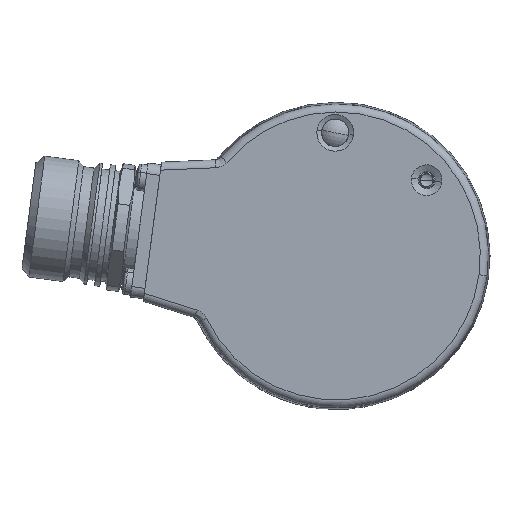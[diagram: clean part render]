
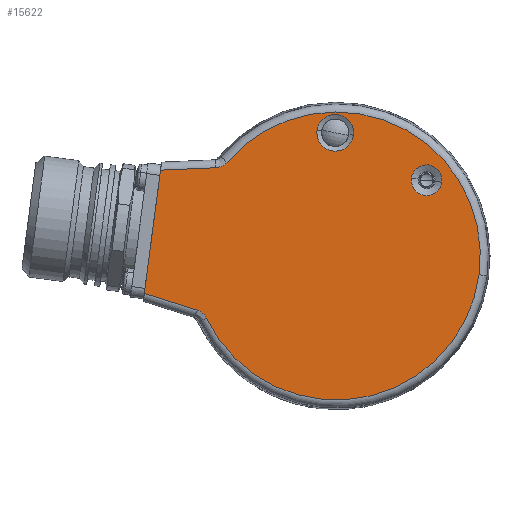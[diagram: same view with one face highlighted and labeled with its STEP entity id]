
A CAD part, left-side view. The second image highlights one B-rep face of the part: STEP entity #15622.
In plain terms, the highlighted planar face has unit normal (-1, 0, 0).
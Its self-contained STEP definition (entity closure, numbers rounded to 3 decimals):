
#14341 = VERTEX_POINT ( 'NONE', #33313 ) ;
#14343 = EDGE_CURVE ( 'NONE', #14344, #14341, #33308, .T. ) ;
#14344 = VERTEX_POINT ( 'NONE', #33299 ) ;
#14933 = VERTEX_POINT ( 'NONE', #35401 ) ;
#14935 = EDGE_CURVE ( 'NONE', #14936, #14933, #35528, .T. ) ;
#14936 = VERTEX_POINT ( 'NONE', #35514 ) ;
#15372 = EDGE_CURVE ( 'NONE', #15374, #15784, #37922, .T. ) ;
#15374 = VERTEX_POINT ( 'NONE', #37912 ) ;
#15481 = EDGE_CURVE ( 'NONE', #15638, #15484, #38439, .T. ) ;
#15484 = VERTEX_POINT ( 'NONE', #38435 ) ;
#15487 = ORIENTED_EDGE ( 'NONE', *, *, #15488, .F. ) ;
#15488 = EDGE_CURVE ( 'NONE', #15491, #15484, #38429, .T. ) ;
#15491 = VERTEX_POINT ( 'NONE', #38424 ) ;
#15493 = ORIENTED_EDGE ( 'NONE', *, *, #15495, .T. ) ;
#15495 = EDGE_CURVE ( 'NONE', #15491, #15497, #38419, .T. ) ;
#15497 = VERTEX_POINT ( 'NONE', #38179 ) ;
#15499 = ORIENTED_EDGE ( 'NONE', *, *, #15500, .F. ) ;
#15500 = EDGE_CURVE ( 'NONE', #15501, #15497, #38175, .T. ) ;
#15501 = VERTEX_POINT ( 'NONE', #38177 ) ;
#15502 = ORIENTED_EDGE ( 'NONE', *, *, #15504, .T. ) ;
#15504 = EDGE_CURVE ( 'NONE', #15501, #15374, #38152, .T. ) ;
#15505 = ORIENTED_EDGE ( 'NONE', *, *, #15372, .T. ) ;
#15622 = ADVANCED_FACE ( 'NONE', ( #38730, #38729, #38728 ), #38767, .F. ) ;
#15624 = EDGE_LOOP ( 'NONE', ( #15626, #15627 ) ) ;
#15626 = ORIENTED_EDGE ( 'NONE', *, *, #14935, .T. ) ;
#15627 = ORIENTED_EDGE ( 'NONE', *, *, #15628, .T. ) ;
#15628 = EDGE_CURVE ( 'NONE', #14933, #14936, #38761, .T. ) ;
#15629 = EDGE_LOOP ( 'NONE', ( #15630, #15631 ) ) ;
#15630 = ORIENTED_EDGE ( 'NONE', *, *, #14343, .T. ) ;
#15631 = ORIENTED_EDGE ( 'NONE', *, *, #15632, .T. ) ;
#15632 = EDGE_CURVE ( 'NONE', #14341, #14344, #38757, .T. ) ;
#15634 = EDGE_LOOP ( 'NONE', ( #15636, #15640, #15487, #15493, #15499, #15502, #15505 ) ) ;
#15636 = ORIENTED_EDGE ( 'NONE', *, *, #15637, .F. ) ;
#15637 = EDGE_CURVE ( 'NONE', #15638, #15784, #38869, .T. ) ;
#15638 = VERTEX_POINT ( 'NONE', #38868 ) ;
#15640 = ORIENTED_EDGE ( 'NONE', *, *, #15481, .T. ) ;
#15784 = VERTEX_POINT ( 'NONE', #39407 ) ;
#33299 = CARTESIAN_POINT ( 'NONE',  ( -19., 3.639, 23.702 ) ) ;
#33301 = DIRECTION ( 'NONE',  ( 0., -0.991, -0.131 ) ) ;
#33303 = DIRECTION ( 'NONE',  ( 1., 0., 0. ) ) ;
#33305 = CARTESIAN_POINT ( 'NONE',  ( -19., 0.203, 23.249 ) ) ;
#33307 = AXIS2_PLACEMENT_3D ( 'NONE', #33305, #33303, #33301 ) ;
#33308 = CIRCLE ( 'NONE', #33307, 3.466 ) ;
#33313 = CARTESIAN_POINT ( 'NONE',  ( -19., -3.233, 22.797 ) ) ;
#35401 = CARTESIAN_POINT ( 'NONE',  ( -19., -19.919, 13.924 ) ) ;
#35514 = CARTESIAN_POINT ( 'NONE',  ( -19., -14.17, 14.68 ) ) ;
#35517 = DIRECTION ( 'NONE',  ( 0., -0.991, -0.131 ) ) ;
#35521 = DIRECTION ( 'NONE',  ( 1., 0., 0. ) ) ;
#35523 = CARTESIAN_POINT ( 'NONE',  ( -19., -17.044, 14.302 ) ) ;
#35525 = AXIS2_PLACEMENT_3D ( 'NONE', #35523, #35521, #35517 ) ;
#35528 = CIRCLE ( 'NONE', #35525, 2.899 ) ;
#37912 = CARTESIAN_POINT ( 'NONE',  ( -19., -26.94, -3.547 ) ) ;
#37914 = DIRECTION ( 'NONE',  ( 0., -0.991, -0.131 ) ) ;
#37915 = DIRECTION ( 'NONE',  ( -1., 0., 0. ) ) ;
#37916 = CARTESIAN_POINT ( 'NONE',  ( -19., 0., 0. ) ) ;
#37917 = AXIS2_PLACEMENT_3D ( 'NONE', #37916, #37915, #37914 ) ;
#37922 = CIRCLE ( 'NONE', #37917, 27.173 ) ;
#38149 = DIRECTION ( 'NONE',  ( 0., -0.991, -0.131 ) ) ;
#38150 = DIRECTION ( 'NONE',  ( -1., 0., 0. ) ) ;
#38151 = AXIS2_PLACEMENT_3D ( 'NONE', #38176, #38150, #38149 ) ;
#38152 = CIRCLE ( 'NONE', #38151, 27.173 ) ;
#38153 = CARTESIAN_POINT ( 'NONE',  ( -19., 26.303, -10.189 ) ) ;
#38154 = CARTESIAN_POINT ( 'NONE',  ( -19., 26.106, -10.251 ) ) ;
#38155 = CARTESIAN_POINT ( 'NONE',  ( -19., 25.919, -10.332 ) ) ;
#38156 = CARTESIAN_POINT ( 'NONE',  ( -19., 25.564, -10.53 ) ) ;
#38158 = CARTESIAN_POINT ( 'NONE',  ( -19., 25.394, -10.649 ) ) ;
#38160 = CARTESIAN_POINT ( 'NONE',  ( -19., 25.085, -10.917 ) ) ;
#38162 = CARTESIAN_POINT ( 'NONE',  ( -19., 24.946, -11.065 ) ) ;
#38163 = CARTESIAN_POINT ( 'NONE',  ( -19., 24.697, -11.39 ) ) ;
#38164 = CARTESIAN_POINT ( 'NONE',  ( -19., 24.589, -11.567 ) ) ;
#38166 = CARTESIAN_POINT ( 'NONE',  ( -19., 24.5, -11.752 ) ) ;
#38175 = B_SPLINE_CURVE_WITH_KNOTS ( 'NONE', 3,
 ( #38166, #38164, #38163, #38162, #38160, #38158, #38156, #38155, #38154, #38153 ),
 .UNSPECIFIED., .F., .F.,
 ( 4, 2, 2, 2, 4 ),
 ( 0., 0.001, 0.001, 0.002, 0.002 ),
 .UNSPECIFIED. ) ;
#38176 = CARTESIAN_POINT ( 'NONE',  ( -19., 0., 0. ) ) ;
#38177 = CARTESIAN_POINT ( 'NONE',  ( -19., 24.5, -11.752 ) ) ;
#38179 = CARTESIAN_POINT ( 'NONE',  ( -19., 26.303, -10.189 ) ) ;
#38196 = DIRECTION ( 'NONE',  ( 1., 0., 0. ) ) ;
#38414 = DIRECTION ( 'NONE',  ( 0., -0.954, -0.301 ) ) ;
#38416 = VECTOR ( 'NONE', #38414, 1000. ) ;
#38418 = CARTESIAN_POINT ( 'NONE',  ( -19., 25.648, -10.395 ) ) ;
#38419 = LINE ( 'NONE', #38418, #38416 ) ;
#38424 = CARTESIAN_POINT ( 'NONE',  ( -19., 36.231, -7.058 ) ) ;
#38426 = DIRECTION ( 'NONE',  ( 0., -0.131, 0.991 ) ) ;
#38427 = VECTOR ( 'NONE', #38426, 1000. ) ;
#38428 = CARTESIAN_POINT ( 'NONE',  ( -19., 36.43, -8.568 ) ) ;
#38429 = LINE ( 'NONE', #38428, #38427 ) ;
#38435 = CARTESIAN_POINT ( 'NONE',  ( -19., 33.17, 16.195 ) ) ;
#38436 = DIRECTION ( 'NONE',  ( 0., 0.999, -0.044 ) ) ;
#38437 = VECTOR ( 'NONE', #38436, 1000. ) ;
#38438 = CARTESIAN_POINT ( 'NONE',  ( -19., 32.906, 16.206 ) ) ;
#38439 = LINE ( 'NONE', #38438, #38437 ) ;
#38728 = FACE_OUTER_BOUND ( 'NONE', #15634, .T. ) ;
#38729 = FACE_BOUND ( 'NONE', #15629, .T. ) ;
#38730 = FACE_BOUND ( 'NONE', #15624, .T. ) ;
#38755 = CARTESIAN_POINT ( 'NONE',  ( -19., 0.203, 23.249 ) ) ;
#38756 = AXIS2_PLACEMENT_3D ( 'NONE', #38755, #38196, #38817 ) ;
#38757 = CIRCLE ( 'NONE', #38756, 3.466 ) ;
#38758 = DIRECTION ( 'NONE',  ( 0., -0.991, -0.131 ) ) ;
#38759 = DIRECTION ( 'NONE',  ( 1., 0., 0. ) ) ;
#38760 = AXIS2_PLACEMENT_3D ( 'NONE', #38766, #38759, #38758 ) ;
#38761 = CIRCLE ( 'NONE', #38760, 2.899 ) ;
#38762 = DIRECTION ( 'NONE',  ( 0., -0.991, -0.131 ) ) ;
#38763 = DIRECTION ( 'NONE',  ( 1., 0., 0. ) ) ;
#38764 = CARTESIAN_POINT ( 'NONE',  ( -19., 0., 0. ) ) ;
#38765 = AXIS2_PLACEMENT_3D ( 'NONE', #38764, #38763, #38762 ) ;
#38766 = CARTESIAN_POINT ( 'NONE',  ( -19., -17.044, 14.302 ) ) ;
#38767 = PLANE ( 'NONE',  #38765 ) ;
#38817 = DIRECTION ( 'NONE',  ( 0., -0.991, -0.131 ) ) ;
#38868 = CARTESIAN_POINT ( 'NONE',  ( -19., 22.77, 16.649 ) ) ;
#38869 = B_SPLINE_CURVE_WITH_KNOTS ( 'NONE', 3,
 ( #38870, #38981, #38980, #38979, #38978, #38977, #38976, #38975, #38974, #38973 ),
 .UNSPECIFIED., .F., .F.,
 ( 4, 2, 2, 2, 4 ),
 ( 0., 0.001, 0.001, 0.002, 0.002 ),
 .UNSPECIFIED. ) ;
#38870 = CARTESIAN_POINT ( 'NONE',  ( -19., 22.77, 16.649 ) ) ;
#38973 = CARTESIAN_POINT ( 'NONE',  ( -19., 20.623, 17.693 ) ) ;
#38974 = CARTESIAN_POINT ( 'NONE',  ( -19., 20.757, 17.536 ) ) ;
#38975 = CARTESIAN_POINT ( 'NONE',  ( -19., 20.905, 17.396 ) ) ;
#38976 = CARTESIAN_POINT ( 'NONE',  ( -19., 21.227, 17.148 ) ) ;
#38977 = CARTESIAN_POINT ( 'NONE',  ( -19., 21.404, 17.038 ) ) ;
#38978 = CARTESIAN_POINT ( 'NONE',  ( -19., 21.771, 16.859 ) ) ;
#38979 = CARTESIAN_POINT ( 'NONE',  ( -19., 21.962, 16.789 ) ) ;
#38980 = CARTESIAN_POINT ( 'NONE',  ( -19., 22.358, 16.688 ) ) ;
#38981 = CARTESIAN_POINT ( 'NONE',  ( -19., 22.564, 16.658 ) ) ;
#39407 = CARTESIAN_POINT ( 'NONE',  ( -19., 20.623, 17.693 ) ) ;
